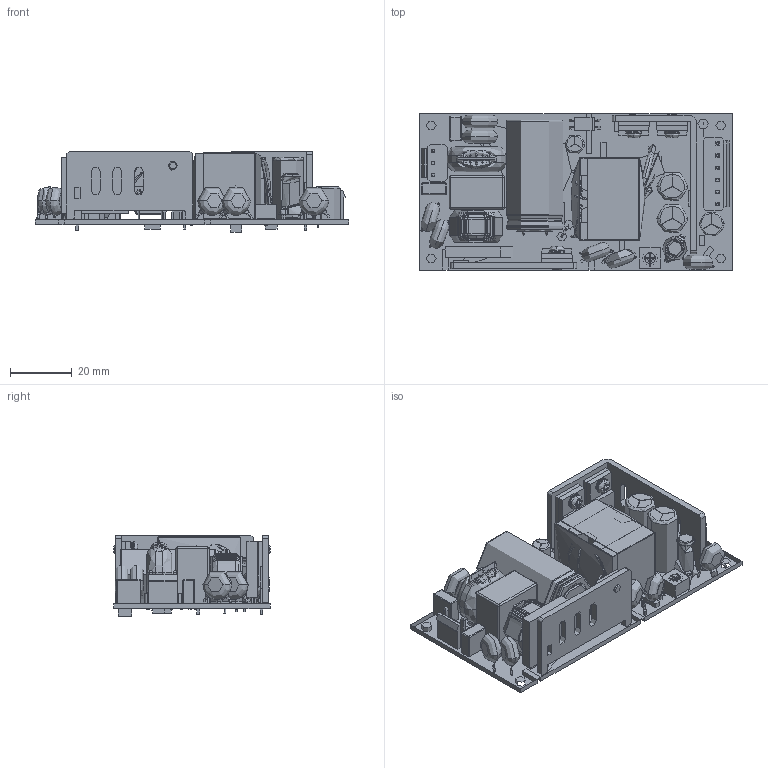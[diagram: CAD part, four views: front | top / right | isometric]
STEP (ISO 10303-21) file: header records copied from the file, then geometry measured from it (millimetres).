
FILE_DESCRIPTION (( 'STEP AP203' ), '1' );
FILE_NAME ('CFM80S120 SPEC-1111212.STEP', '2024-07-23T07:40:08', ( 'cincon' ), ( '' ), 'SwSTEP 2.0', 'SolidWorks 2020', '' );
FILE_SCHEMA (( 'CONFIG_CONTROL_DESIGN' ));
Length unit declared in the file: millimetre
Products named in the file (1): CFM80S120 SPEC-1111212
Bounding box: 101.6 x 50.92 x 26.1 mm (x, y, z)
Topology: 1 solids, 2 shells, 2237 faces, 6293 edges, 4032 vertices
Faces by surface type: plane 769, bspline 588, cylinder 528, torus 297, cone 43, sphere 12
Full cylindrical faces by diameter (mm): 0.7 x1, 0.8 x1, 1.5 x2, 2.8 x2, 3.2 x2, 5 x1, 5.4 x1
Entity records: 98821 total; most frequent: CARTESIAN_POINT 45387, ORIENTED_EDGE 12562, DIRECTION 9958, EDGE_CURVE 6269, VERTEX_POINT 4036, AXIS2_PLACEMENT_3D 3717, LINE 2524, VECTOR 2524
